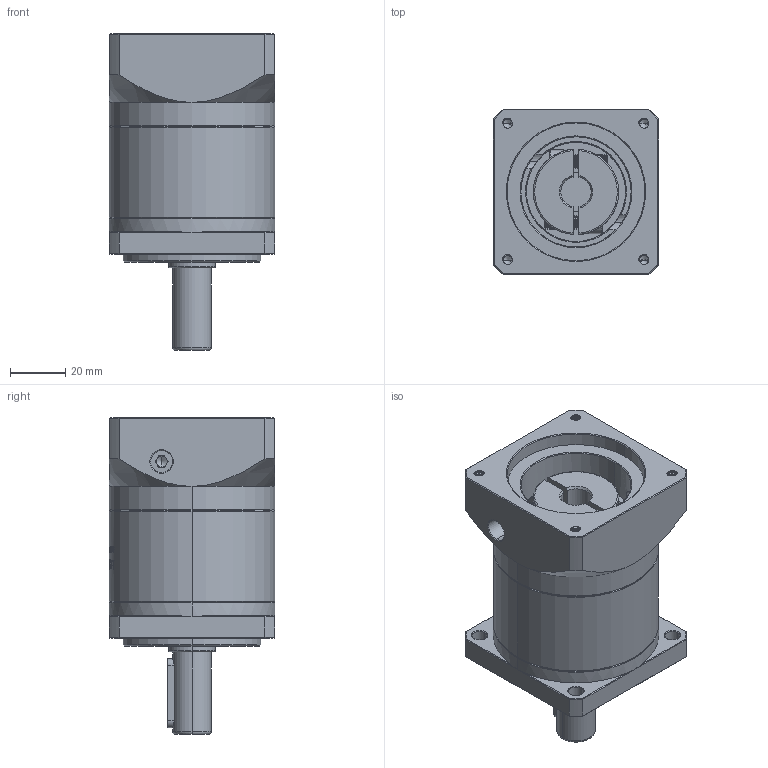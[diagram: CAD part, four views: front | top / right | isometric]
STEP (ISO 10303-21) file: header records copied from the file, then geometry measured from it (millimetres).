
FILE_DESCRIPTION (( 'STEP AP214' ), '1' );
FILE_NAME ('ZF060-D14-L1-P2-11-50-70-M4.step', '2023-08-16T04:21:48', ( '' ), ( '' ), 'SwSTEP 2.0', 'SolidWorks 2016', '' );
FILE_SCHEMA (( 'AUTOMOTIVE_DESIGN' ));
Length unit declared in the file: millimetre
Products named in the file (1): ZF060-D14-L1-P2-11-50-70-M4
Bounding box: 60 x 60 x 115 mm (x, y, z)
Volume: 221604.4 mm3; surface area: 43746.1 mm2
Topology: 6 solids, 6 shells, 1734 faces, 4694 edges, 3043 vertices
Faces by surface type: plane 794, bspline 354, cylinder 332, cone 234, torus 20
Entity records: 96189 total; most frequent: CARTESIAN_POINT 37648, ORIENTED_EDGE 9360, DIRECTION 6706, EDGE_CURVE 4680, VERTEX_POINT 3043, VECTOR 2370, LINE 2370, AXIS2_PLACEMENT_3D 2168
